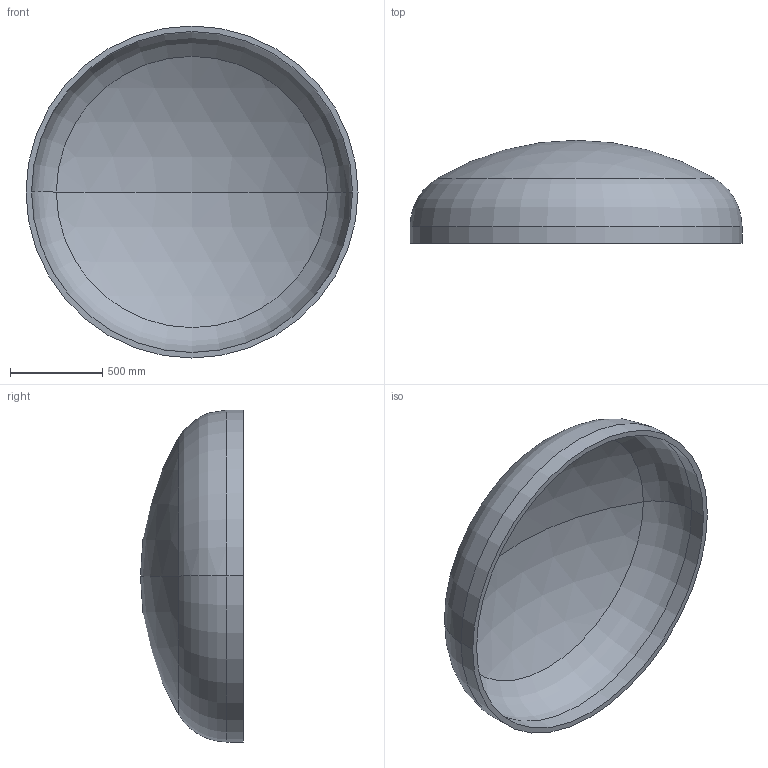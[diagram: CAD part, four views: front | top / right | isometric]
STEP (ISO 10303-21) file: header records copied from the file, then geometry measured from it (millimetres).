
FILE_DESCRIPTION (( 'STEP AP203' ), '1' );
FILE_NAME ('DIN 28013 Korbbogenform_-_Boden DIN 28013 - 1800 x 90 - I - s=30.step', '2016-07-01T12:25:34', ( '' ), ( '' ), 'SwSTEP 2.0', 'SolidWorks 2013', '' );
FILE_SCHEMA (( 'CONFIG_CONTROL_DESIGN' ));
Length unit declared in the file: millimetre
Products named in the file (1): DIN 28013 Korbbogenform_-_Boden DIN 28013 - 1800 x 90 - I - s=30
Bounding box: 1800 x 558.4 x 1800 mm (x, y, z)
Volume: 118282533.3 mm3; surface area: 8054203.1 mm2
Topology: 1 solids, 1 shells, 13 faces, 24 edges, 14 vertices
Faces by surface type: torus 4, cylinder 4, sphere 4, plane 1
Entity records: 407 total; most frequent: DIRECTION 72, CARTESIAN_POINT 52, ORIENTED_EDGE 48, AXIS2_PLACEMENT_3D 34, EDGE_CURVE 24, CIRCLE 20, EDGE_LOOP 14, VERTEX_POINT 14
